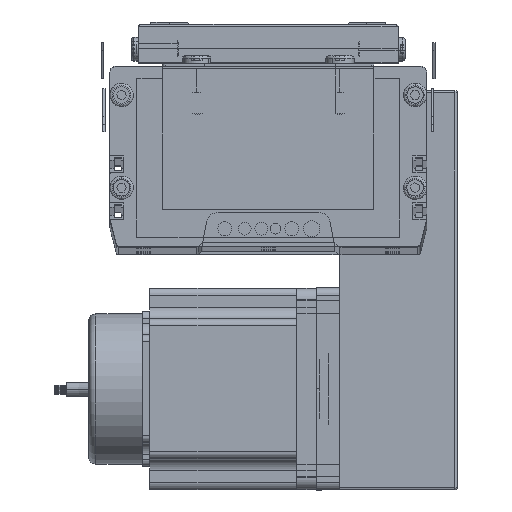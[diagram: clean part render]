
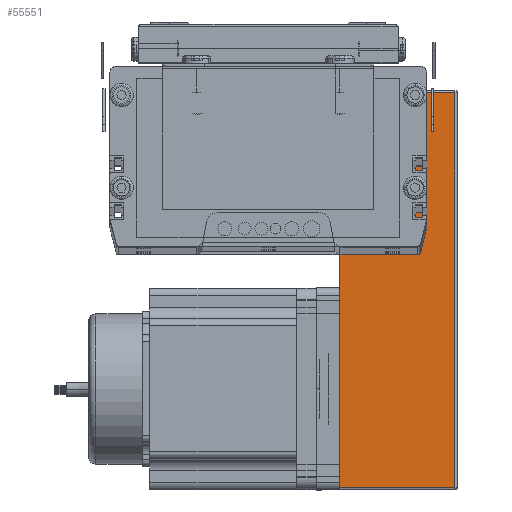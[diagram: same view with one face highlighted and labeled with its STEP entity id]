
A CAD part, top view. The second image highlights one B-rep face of the part: STEP entity #55551.
In plain terms, the highlighted planar face has unit normal (0, 0, 1) as drawn and (0, 1, 0) by its records, which use the part's own axes.
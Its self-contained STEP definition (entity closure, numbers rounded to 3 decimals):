
#12693 = CARTESIAN_POINT ( 'NONE',  ( 169., 70., 0. ) ) ;
#12724 = DIRECTION ( 'NONE',  ( -1., 0., 0. ) ) ;
#12725 = VECTOR ( 'NONE', #12724, 1000. ) ;
#12726 = CARTESIAN_POINT ( 'NONE',  ( 0., 70., 0. ) ) ;
#12728 = LINE ( 'NONE', #12726, #12725 ) ;
#13698 = CARTESIAN_POINT ( 'NONE',  ( 10.902, 70., 0. ) ) ;
#13975 = CARTESIAN_POINT ( 'NONE',  ( 85.9, 70., 0. ) ) ;
#14266 = DIRECTION ( 'NONE',  ( 0., 0., -1. ) ) ;
#14269 = VECTOR ( 'NONE', #14266, 1000. ) ;
#14271 = CARTESIAN_POINT ( 'NONE',  ( 169., 70., 50. ) ) ;
#14273 = LINE ( 'NONE', #14271, #14269 ) ;
#14409 = VECTOR ( 'NONE', #14575, 1000. ) ;
#14412 = CARTESIAN_POINT ( 'NONE',  ( 1., 70., 50. ) ) ;
#14453 = LINE ( 'NONE', #14412, #14409 ) ;
#14545 = DIRECTION ( 'NONE',  ( 1., 0., 0. ) ) ;
#14550 = VECTOR ( 'NONE', #14545, 1000. ) ;
#14551 = CARTESIAN_POINT ( 'NONE',  ( 0., 70., 0. ) ) ;
#14552 = LINE ( 'NONE', #14551, #14550 ) ;
#14575 = DIRECTION ( 'NONE',  ( 0., 0., 1. ) ) ;
#14638 = CARTESIAN_POINT ( 'NONE',  ( 169., 70., 49. ) ) ;
#14698 = CARTESIAN_POINT ( 'NONE',  ( 5.418, 70., 0. ) ) ;
#15245 = CARTESIAN_POINT ( 'NONE',  ( 74.961, 70., 0. ) ) ;
#15696 = DIRECTION ( 'NONE',  ( 1., 0., 0. ) ) ;
#15697 = VECTOR ( 'NONE', #15696, 1000. ) ;
#15698 = CARTESIAN_POINT ( 'NONE',  ( 0., 70., 0. ) ) ;
#15699 = LINE ( 'NONE', #15698, #15697 ) ;
#15709 = CARTESIAN_POINT ( 'NONE',  ( 80.439, 70., 0. ) ) ;
#15745 = CARTESIAN_POINT ( 'NONE',  ( 1., 70., 0. ) ) ;
#15747 = PLANE ( 'NONE',  #15756 ) ;
#15749 = CARTESIAN_POINT ( 'NONE',  ( 0., 70., 50. ) ) ;
#15756 = AXIS2_PLACEMENT_3D ( 'NONE', #15749, #15792, #15791 ) ;
#15769 = FACE_OUTER_BOUND ( 'NONE', #54778, .T. ) ;
#15770 = CARTESIAN_POINT ( 'NONE',  ( 1., 70., 49. ) ) ;
#15775 = LINE ( 'NONE', #15793, #15827 ) ;
#15777 = CARTESIAN_POINT ( 'NONE',  ( 0., 70., 0. ) ) ;
#15778 = LINE ( 'NONE', #15777, #15821 ) ;
#15791 = DIRECTION ( 'NONE',  ( 0., 0., -1. ) ) ;
#15792 = DIRECTION ( 'NONE',  ( 0., -1., 0. ) ) ;
#15793 = CARTESIAN_POINT ( 'NONE',  ( 0., 70., 0. ) ) ;
#15813 = DIRECTION ( 'NONE',  ( 1., 0., 0. ) ) ;
#15814 = VECTOR ( 'NONE', #15813, 1000. ) ;
#15820 = DIRECTION ( 'NONE',  ( 1., 0., 0. ) ) ;
#15821 = VECTOR ( 'NONE', #15820, 1000. ) ;
#15824 = CARTESIAN_POINT ( 'NONE',  ( 0., 70., 0. ) ) ;
#15825 = LINE ( 'NONE', #15824, #15814 ) ;
#15826 = DIRECTION ( 'NONE',  ( 1., 0., 0. ) ) ;
#15827 = VECTOR ( 'NONE', #15826, 1000. ) ;
#15876 = DIRECTION ( 'NONE',  ( 1., 0., 0. ) ) ;
#15877 = VECTOR ( 'NONE', #15876, 1000. ) ;
#15878 = CARTESIAN_POINT ( 'NONE',  ( 0., 70., 49. ) ) ;
#15886 = LINE ( 'NONE', #15878, #15877 ) ;
#54448 = EDGE_CURVE ( 'NONE', #54457, #54721, #12728, .T. ) ;
#54457 = VERTEX_POINT ( 'NONE', #12693 ) ;
#54580 = VERTEX_POINT ( 'NONE', #13698 ) ;
#54587 = ORIENTED_EDGE ( 'NONE', *, *, #55487, .F. ) ;
#54721 = VERTEX_POINT ( 'NONE', #13975 ) ;
#54778 = EDGE_LOOP ( 'NONE', ( #54945, #54587, #55547, #55553, #54967, #55562, #55013, #55642, #54951 ) ) ;
#54891 = EDGE_CURVE ( 'NONE', #55011, #54457, #14273, .T. ) ;
#54945 = ORIENTED_EDGE ( 'NONE', *, *, #54448, .T. ) ;
#54950 = EDGE_CURVE ( 'NONE', #55570, #55569, #14453, .T. ) ;
#54951 = ORIENTED_EDGE ( 'NONE', *, *, #54891, .T. ) ;
#54967 = ORIENTED_EDGE ( 'NONE', *, *, #55576, .F. ) ;
#54969 = EDGE_CURVE ( 'NONE', #55570, #55066, #14552, .T. ) ;
#55011 = VERTEX_POINT ( 'NONE', #14638 ) ;
#55013 = ORIENTED_EDGE ( 'NONE', *, *, #54950, .T. ) ;
#55066 = VERTEX_POINT ( 'NONE', #14698 ) ;
#55333 = VERTEX_POINT ( 'NONE', #15245 ) ;
#55485 = VERTEX_POINT ( 'NONE', #15709 ) ;
#55487 = EDGE_CURVE ( 'NONE', #55485, #54721, #15699, .T. ) ;
#55547 = ORIENTED_EDGE ( 'NONE', *, *, #55559, .F. ) ;
#55551 = ADVANCED_FACE ( 'NONE', ( #15769 ), #15747, .F. ) ;
#55553 = ORIENTED_EDGE ( 'NONE', *, *, #55566, .F. ) ;
#55559 = EDGE_CURVE ( 'NONE', #55333, #55485, #15775, .T. ) ;
#55562 = ORIENTED_EDGE ( 'NONE', *, *, #54969, .F. ) ;
#55566 = EDGE_CURVE ( 'NONE', #54580, #55333, #15778, .T. ) ;
#55569 = VERTEX_POINT ( 'NONE', #15770 ) ;
#55570 = VERTEX_POINT ( 'NONE', #15745 ) ;
#55576 = EDGE_CURVE ( 'NONE', #55066, #54580, #15825, .T. ) ;
#55635 = EDGE_CURVE ( 'NONE', #55569, #55011, #15886, .T. ) ;
#55642 = ORIENTED_EDGE ( 'NONE', *, *, #55635, .T. ) ;
